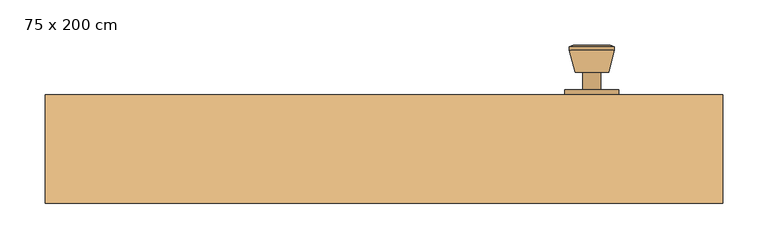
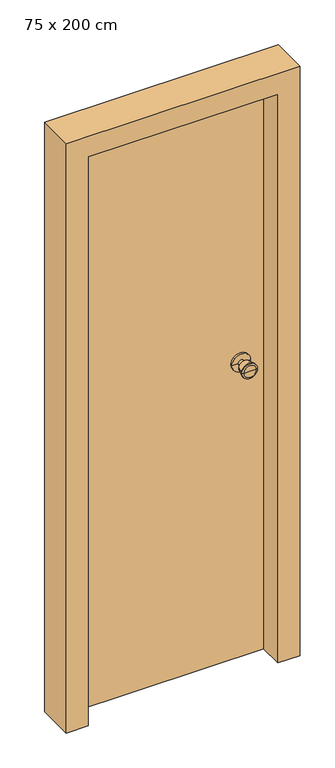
"""IFC4 building model written with IfcOpenShell, lengths in millimetres: door geometry, 單開-矩形- (1) : 75 x 200 cm."""

from ifc_helpers import new_model, si_unit, frame, origin, origin_with_axes, place, context, project, spatial, polyline, circle_curve, outline, extrude, faceted_brep, source, transform, mapped, element, save
from ifc_brep_helpers import plane_surface, cylinder_surface, revolved_surface, advanced_brep


def door_75_x_200_cm_865d52c3(model_context):
    return source(origin(), model_context, "Body", "SolidModel", [
        advanced_brep(
        [(260.0, -144.0, 1000.0), (260.0, -150.0, 1000.0), (200.0, -150.0, 1000.0), (200.0, -144.0, 1000.0), (240.0, -144.0, 1000.0), (220.0, -144.0, 1000.0), (240.0, -125.0, 1000.0), (220.0, -125.0, 1000.0), (248.6, -125.0, 1000.0), (211.4, -125.0, 1000.0), (255.0, -100.3, 1000.0), (205.0, -100.3, 1000.0), (255.0, -96.8, 1000.0), (205.0, -96.8, 1000.0), (250.5, -95.0, 1000.0), (209.5, -95.0, 1000.0), (230.0, -95.0, 1000.0), (230.0, -150.0, 1000.0)],
        [
            (0, 1),
            (1, 2, circle_curve(frame((230.0, -150.0, 1000.0), z_axis=(0.0, 1.0, 0.0), x_axis=(-1.0, 0.0, 0.0)), 30.0)),
            (2, 3),
            (3, 0, circle_curve(frame((230.0, -144.0, 1000.0), z_axis=(0.0, -1.0, 0.0), x_axis=(-1.0, 0.0, 0.0)), 30.0)),
            (2, 1, circle_curve(frame((230.0, -150.0, 1000.0), z_axis=(0.0, 1.0, 0.0), x_axis=(-1.0, 0.0, 0.0)), 30.0)),
            (0, 3, circle_curve(frame((230.0, -144.0, 1000.0), z_axis=(0.0, -1.0, 0.0), x_axis=(-1.0, 0.0, 0.0)), 30.0)),
            (4, 0),
            (3, 5),
            (5, 4, circle_curve(frame((230.0, -144.0, 1000.0), z_axis=(0.0, -1.0, 0.0), x_axis=(-1.0, 0.0, 0.0)), 10.0)),
            (4, 5, circle_curve(frame((230.0, -144.0, 1000.0), z_axis=(0.0, -1.0, 0.0), x_axis=(-1.0, 0.0, 0.0)), 10.0)),
            (6, 4),
            (5, 7),
            (7, 6, circle_curve(frame((230.0, -125.0, 1000.0), z_axis=(0.0, -1.0, 0.0), x_axis=(-1.0, 0.0, 0.0)), 10.0)),
            (6, 7, circle_curve(frame((230.0, -125.0, 1000.0), z_axis=(0.0, -1.0, 0.0), x_axis=(-1.0, 0.0, 0.0)), 10.0)),
            (8, 6),
            (7, 9),
            (9, 8, circle_curve(frame((230.0, -125.0, 1000.0), z_axis=(0.0, -1.0, 0.0), x_axis=(-1.0, 0.0, 0.0)), 18.6)),
            (8, 9, circle_curve(frame((230.0, -125.0, 1000.0), z_axis=(0.0, -1.0, 0.0), x_axis=(-1.0, 0.0, 0.0)), 18.6)),
            (10, 8),
            (9, 11),
            (11, 10, circle_curve(frame((230.0, -100.3, 1000.0), z_axis=(0.0, -1.0, 0.0), x_axis=(-1.0, 0.0, 0.0)), 25.0)),
            (10, 11, circle_curve(frame((230.0, -100.3, 1000.0), z_axis=(0.0, -1.0, 0.0), x_axis=(-1.0, 0.0, 0.0)), 25.0)),
            (12, 10),
            (11, 13),
            (13, 12, circle_curve(frame((230.0, -96.8, 1000.0), z_axis=(0.0, -1.0, 0.0), x_axis=(-1.0, 0.0, 0.0)), 25.0)),
            (12, 13, circle_curve(frame((230.0, -96.8, 1000.0), z_axis=(0.0, -1.0, 0.0), x_axis=(-1.0, 0.0, 0.0)), 25.0)),
            (14, 12),
            (13, 15),
            (15, 14, circle_curve(frame((230.0, -95.0, 1000.0), z_axis=(0.0, -1.0, 0.0), x_axis=(-1.0, 0.0, 0.0)), 20.5)),
            (14, 15, circle_curve(frame((230.0, -95.0, 1000.0), z_axis=(0.0, -1.0, 0.0), x_axis=(-1.0, 0.0, 0.0)), 20.5)),
            (16, 14),
            (15, 16),
            (1, 17),
            (17, 2),
        ],
        [
            cylinder_surface(frame((230.0, -210.0, 1000.0), z_axis=(0.0, 1.0, 0.0), x_axis=(-1.0, 0.0, 0.0)), 30.0),
            plane_surface(frame((230.0, -144.0, 1000.0), z_axis=(0.0, 1.0, 0.0), x_axis=(-1.0, 0.0, 0.0))),
            cylinder_surface(frame((230.0, -210.0, 1000.0), z_axis=(0.0, 1.0, 0.0), x_axis=(-1.0, 0.0, 0.0)), 10.0),
            plane_surface(frame((230.0, -125.0, 1000.0), z_axis=(0.0, -1.0, 0.0), x_axis=(-1.0, 0.0, 0.0))),
            revolved_surface(polyline([(211.4, -125.0, 1000.0), (205.0, -100.3, 1000.0)]), (230.0, -210.0, 1000.0), (0.0, 1.0, 0.0)),
            cylinder_surface(frame((230.0, -210.0, 1000.0), z_axis=(0.0, 1.0, 0.0), x_axis=(-1.0, 0.0, 0.0)), 25.0),
            revolved_surface(polyline([(205.0, -96.8, 1000.0), (209.5, -95.0, 1000.0)]), (230.0, -210.0, 1000.0), (0.0, 1.0, 0.0)),
            plane_surface(frame((230.0, -95.0, 1000.0), z_axis=(0.0, 1.0, 0.0), x_axis=(-1.0, 0.0, 0.0))),
            plane_surface(frame((230.0, -150.0, 1000.0), z_axis=(0.0, -1.0, 0.0), x_axis=(-1.0, 0.0, 0.0))),
        ],
        [
            (0, [[1, 2, 3, 4]]),
            (0, [[-3, 5, -1, 6]]),
            (1, [[7, -4, 8, 9]]),
            (1, [[-8, -6, -7, 10]]),
            (2, [[11, -9, 12, 13]]),
            (2, [[-12, -10, -11, 14]]),
            (3, [[15, -13, 16, 17]]),
            (3, [[-16, -14, -15, 18]]),
            (4, [[19, -17, 20, 21]]),
            (4, [[-20, -18, -19, 22]]),
            (5, [[23, -21, 24, 25]]),
            (5, [[-24, -22, -23, 26]]),
            (6, [[27, -25, 28, 29]]),
            (6, [[-28, -26, -27, 30]]),
            (7, [[31, -29, 32]]),
            (7, [[-32, -30, -31]]),
            (8, [[33, 34, -2]]),
            (8, [[-34, -33, -5]]),
        ],
    ),
        advanced_brep(
        [(260.0, -196.0, 1000.0), (200.0, -196.0, 1000.0), (200.0, -190.0, 1000.0), (260.0, -190.0, 1000.0), (240.0, -196.0, 1000.0), (220.0, -196.0, 1000.0), (240.0, -215.0, 1000.0), (220.0, -215.0, 1000.0), (248.6, -215.0, 1000.0), (211.4, -215.0, 1000.0), (255.0, -239.7, 1000.0), (205.0, -239.7, 1000.0), (255.0, -243.2, 1000.0), (205.0, -243.2, 1000.0), (250.5, -245.0, 1000.0), (209.5, -245.0, 1000.0), (230.0, -245.0, 1000.0), (230.0, -190.0, 1000.0)],
        [
            (0, 1, circle_curve(frame((230.0, -196.0, 1000.0), z_axis=(0.0, 1.0, 0.0), x_axis=(-1.0, 0.0, 0.0)), 30.0)),
            (1, 2),
            (2, 3, circle_curve(frame((230.0, -190.0, 1000.0), z_axis=(0.0, -1.0, 0.0), x_axis=(-1.0, 0.0, 0.0)), 30.0)),
            (3, 0),
            (1, 0, circle_curve(frame((230.0, -196.0, 1000.0), z_axis=(0.0, 1.0, 0.0), x_axis=(-1.0, 0.0, 0.0)), 30.0)),
            (3, 2, circle_curve(frame((230.0, -190.0, 1000.0), z_axis=(0.0, -1.0, 0.0), x_axis=(-1.0, 0.0, 0.0)), 30.0)),
            (4, 5, circle_curve(frame((230.0, -196.0, 1000.0), z_axis=(0.0, 1.0, 0.0), x_axis=(-1.0, 0.0, 0.0)), 10.0)),
            (5, 1),
            (0, 4),
            (5, 4, circle_curve(frame((230.0, -196.0, 1000.0), z_axis=(0.0, 1.0, 0.0), x_axis=(-1.0, 0.0, 0.0)), 10.0)),
            (6, 7, circle_curve(frame((230.0, -215.0, 1000.0), z_axis=(0.0, 1.0, 0.0), x_axis=(-1.0, 0.0, 0.0)), 10.0)),
            (7, 5),
            (4, 6),
            (7, 6, circle_curve(frame((230.0, -215.0, 1000.0), z_axis=(0.0, 1.0, 0.0), x_axis=(-1.0, 0.0, 0.0)), 10.0)),
            (8, 9, circle_curve(frame((230.0, -215.0, 1000.0), z_axis=(0.0, 1.0, 0.0), x_axis=(-1.0, 0.0, 0.0)), 18.6)),
            (9, 7),
            (6, 8),
            (9, 8, circle_curve(frame((230.0, -215.0, 1000.0), z_axis=(0.0, 1.0, 0.0), x_axis=(-1.0, 0.0, 0.0)), 18.6)),
            (10, 11, circle_curve(frame((230.0, -239.7, 1000.0), z_axis=(0.0, 1.0, 0.0), x_axis=(-1.0, 0.0, 0.0)), 25.0)),
            (11, 9),
            (8, 10),
            (11, 10, circle_curve(frame((230.0, -239.7, 1000.0), z_axis=(0.0, 1.0, 0.0), x_axis=(-1.0, 0.0, 0.0)), 25.0)),
            (12, 13, circle_curve(frame((230.0, -243.2, 1000.0), z_axis=(0.0, 1.0, 0.0), x_axis=(-1.0, 0.0, 0.0)), 25.0)),
            (13, 11),
            (10, 12),
            (13, 12, circle_curve(frame((230.0, -243.2, 1000.0), z_axis=(0.0, 1.0, 0.0), x_axis=(-1.0, 0.0, 0.0)), 25.0)),
            (14, 15, circle_curve(frame((230.0, -245.0, 1000.0), z_axis=(0.0, 1.0, 0.0), x_axis=(-1.0, 0.0, 0.0)), 20.5)),
            (15, 13),
            (12, 14),
            (15, 14, circle_curve(frame((230.0, -245.0, 1000.0), z_axis=(0.0, 1.0, 0.0), x_axis=(-1.0, 0.0, 0.0)), 20.5)),
            (16, 15),
            (14, 16),
            (2, 17),
            (17, 3),
        ],
        [
            cylinder_surface(frame((230.0, -130.0, 1000.0), z_axis=(0.0, -1.0, 0.0), x_axis=(-1.0, 0.0, 0.0)), 30.0),
            plane_surface(frame((230.0, -196.0, 1000.0), z_axis=(0.0, -1.0, 0.0), x_axis=(-1.0, 0.0, 0.0))),
            cylinder_surface(frame((230.0, -130.0, 1000.0), z_axis=(0.0, -1.0, 0.0), x_axis=(-1.0, 0.0, 0.0)), 10.0),
            plane_surface(frame((230.0, -215.0, 1000.0), z_axis=(0.0, 1.0, 0.0), x_axis=(-1.0, 0.0, 0.0))),
            revolved_surface(polyline([(211.4, -215.0, 1000.0), (205.0, -239.7, 1000.0)]), (230.0, -130.0, 1000.0), (0.0, -1.0, 0.0)),
            cylinder_surface(frame((230.0, -130.0, 1000.0), z_axis=(0.0, -1.0, 0.0), x_axis=(-1.0, 0.0, 0.0)), 25.0),
            revolved_surface(polyline([(205.0, -243.2, 1000.0), (209.5, -245.0, 1000.0)]), (230.0, -130.0, 1000.0), (0.0, -1.0, 0.0)),
            plane_surface(frame((230.0, -245.0, 1000.0), z_axis=(0.0, -1.0, 0.0), x_axis=(-1.0, 0.0, 0.0))),
            plane_surface(frame((230.0, -190.0, 1000.0), z_axis=(0.0, 1.0, 0.0), x_axis=(-1.0, 0.0, 0.0))),
        ],
        [
            (0, [[1, 2, 3, 4]]),
            (0, [[5, -4, 6, -2]]),
            (1, [[7, 8, -1, 9]]),
            (1, [[10, -9, -5, -8]]),
            (2, [[11, 12, -7, 13]]),
            (2, [[14, -13, -10, -12]]),
            (3, [[15, 16, -11, 17]]),
            (3, [[18, -17, -14, -16]]),
            (4, [[19, 20, -15, 21]]),
            (4, [[22, -21, -18, -20]]),
            (5, [[23, 24, -19, 25]]),
            (5, [[26, -25, -22, -24]]),
            (6, [[27, 28, -23, 29]]),
            (6, [[30, -29, -26, -28]]),
            (7, [[31, -27, 32]]),
            (7, [[-32, -30, -31]]),
            (8, [[-3, 33, 34]]),
            (8, [[-6, -34, -33]]),
        ],
    ),
        extrude(outline(polyline([(325.0, -190.0), (-325.0, -190.0), (-325.0, -150.0), (325.0, -150.0), (325.0, -190.0)])), origin_with_axes(), (0.0, 0.0, 1.0), 1950.0),
        faceted_brep([(325.0, -150.0, 0.0), (375.0, -150.0, 0.0), (375.0, -270.0, 0.0), (305.0, -270.0, 0.0), (305.0, -190.0, 0.0), (325.0, -190.0, 0.0), (325.0, -150.0, 1950.0), (-325.0, -150.0, 1950.0), (-325.0, -150.0, 0.0), (-375.0, -150.0, 0.0), (-375.0, -150.0, 2000.0), (375.0, -150.0, 2000.0), (375.0, -270.0, 2000.0), (-375.0, -270.0, 2000.0), (-375.0, -270.0, 0.0), (-305.0, -270.0, 0.0), (-305.0, -270.0, 1930.0), (305.0, -270.0, 1930.0), (305.0, -190.0, 1930.0), (-305.0, -190.0, 1930.0), (-305.0, -190.0, 0.0), (-325.0, -190.0, 0.0), (-325.0, -190.0, 1950.0), (325.0, -190.0, 1950.0)], [[[0, 1, 2, 3, 4, 5]], [[1, 0, 6, 7, 8, 9, 10, 11]], [[2, 1, 11, 12]], [[3, 2, 12, 13, 14, 15, 16, 17]], [[4, 3, 17, 18]], [[5, 4, 18, 19, 20, 21, 22, 23]], [[0, 5, 23, 6]], [[12, 11, 10, 13]], [[18, 17, 16, 19]], [[6, 23, 22, 7]], [[8, 21, 20, 15, 14, 9]], [[13, 10, 9, 14]], [[19, 16, 15, 20]], [[7, 22, 21, 8]]]),
    ])


if __name__ == "__main__":
    model = new_model("IFC4")
    model_context = context("Model", 3, world=origin())
    ifc_project = project(units=[si_unit("LENGTHUNIT", "METRE", prefix="MILLI")], contexts=[model_context])
    site = spatial("IfcSite", under=ifc_project)
    building = spatial("IfcBuilding", under=site)
    placement = place(None, origin())
    door_75_x_200_cm_shape = door_75_x_200_cm_865d52c3(model_context)
    element("IfcDoor", 1, ObjectType="單開-矩形- (1) : 75 x 200 cm", at=placement, inside=building, context=model_context, shape_type="MappedRepresentation", body=[
        mapped(door_75_x_200_cm_shape, transform((0.0, 0.0, 0.0), x_axis=(1.0, 0.0, 0.0), y_axis=(0.0, 1.0, 0.0), z_axis=(0.0, 0.0, 1.0))),
    ])
    save(model, "model.ifc")
